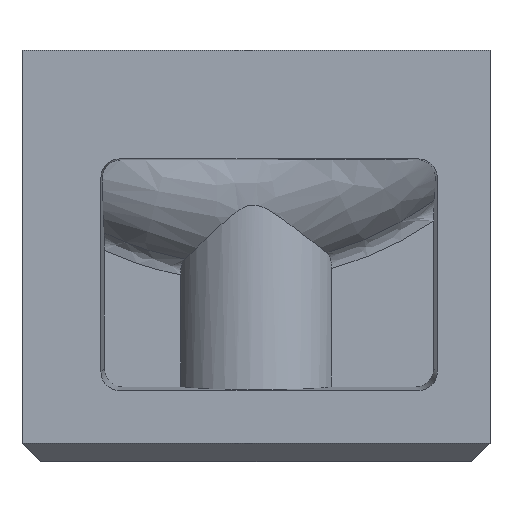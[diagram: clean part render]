
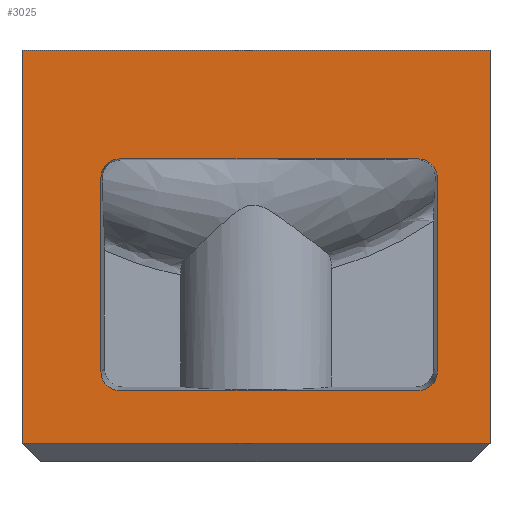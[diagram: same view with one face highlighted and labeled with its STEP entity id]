
A CAD part, left-side view. The second image highlights one B-rep face of the part: STEP entity #3025.
In plain terms, the highlighted planar face has unit normal (-1, 0, 0).
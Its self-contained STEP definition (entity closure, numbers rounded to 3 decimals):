
#226=DIRECTION('',(0.,1.,0.));
#227=VECTOR('',#226,25.);
#228=CARTESIAN_POINT('',(-5.,-22.5,2.5));
#229=LINE('',#228,#227);
#684=DIRECTION('',(0.,1.,0.));
#685=VECTOR('',#684,25.);
#686=CARTESIAN_POINT('',(-5.,-22.5,-18.5));
#687=LINE('',#686,#685);
#688=DIRECTION('',(0.,0.,-1.));
#689=VECTOR('',#688,21.);
#690=CARTESIAN_POINT('',(-5.,-22.5,2.5));
#691=LINE('',#690,#689);
#692=DIRECTION('',(0.,1.,0.));
#693=VECTOR('',#692,15.969);
#694=CARTESIAN_POINT('',(-5.,-18.685,
-3.317));
#695=LINE('',#694,#693);
#696=DIRECTION('',(0.,0.,-1.));
#697=VECTOR('',#696,10.369);
#698=CARTESIAN_POINT('',(-5.,-1.717,
-4.315));
#699=LINE('',#698,#697);
#700=DIRECTION('',(0.,-1.,0.));
#701=VECTOR('',#700,15.969);
#702=CARTESIAN_POINT('',(-5.,-2.715,
-15.683));
#703=LINE('',#702,#701);
#704=DIRECTION('',(0.,0.,1.));
#705=VECTOR('',#704,10.369);
#706=CARTESIAN_POINT('',(-5.,-19.683,
-14.685));
#707=LINE('',#706,#705);
#712=DIRECTION('',(0.,0.,-1.));
#713=VECTOR('',#712,21.);
#714=CARTESIAN_POINT('',(-5.,2.5,2.5));
#715=LINE('',#714,#713);
#724=CARTESIAN_POINT('',(-5.,-18.685,
-3.317));
#725=CARTESIAN_POINT('',(-5.,-18.761,
-3.317));
#726=CARTESIAN_POINT('',(-5.,-18.909,
-3.333));
#727=CARTESIAN_POINT('',(-5.,-19.122,
-3.408));
#728=CARTESIAN_POINT('',(-5.,-19.313,
-3.528));
#729=CARTESIAN_POINT('',(-5.,-19.472,
-3.687));
#730=CARTESIAN_POINT('',(-5.,-19.592,
-3.878));
#731=CARTESIAN_POINT('',(-5.,-19.667,
-4.091));
#732=CARTESIAN_POINT('',(-5.,-19.683,
-4.239));
#733=CARTESIAN_POINT('',(-5.,-19.683,
-4.315));
#747=CARTESIAN_POINT('',(-5.,-19.683,
-14.685));
#748=CARTESIAN_POINT('',(-5.,-19.683,
-14.761));
#749=CARTESIAN_POINT('',(-5.,-19.667,
-14.909));
#750=CARTESIAN_POINT('',(-5.,-19.592,
-15.122));
#751=CARTESIAN_POINT('',(-5.,-19.472,
-15.313));
#752=CARTESIAN_POINT('',(-5.,-19.313,
-15.472));
#753=CARTESIAN_POINT('',(-5.,-19.122,
-15.592));
#754=CARTESIAN_POINT('',(-5.,-18.909,
-15.667));
#755=CARTESIAN_POINT('',(-5.,-18.761,
-15.683));
#756=CARTESIAN_POINT('',(-5.,-18.685,
-15.683));
#803=CARTESIAN_POINT('',(-5.,-2.715,
-15.683));
#804=CARTESIAN_POINT('',(-5.,-2.639,
-15.683));
#805=CARTESIAN_POINT('',(-5.,-2.491,
-15.667));
#806=CARTESIAN_POINT('',(-5.,-2.278,
-15.592));
#807=CARTESIAN_POINT('',(-5.,-2.087,
-15.472));
#808=CARTESIAN_POINT('',(-5.,-1.928,
-15.313));
#809=CARTESIAN_POINT('',(-5.,-1.808,
-15.122));
#810=CARTESIAN_POINT('',(-5.,-1.733,
-14.909));
#811=CARTESIAN_POINT('',(-5.,-1.717,
-14.761));
#812=CARTESIAN_POINT('',(-5.,-1.717,
-14.685));
#837=CARTESIAN_POINT('',(-5.,-1.717,
-4.315));
#838=CARTESIAN_POINT('',(-5.,-1.717,
-4.239));
#839=CARTESIAN_POINT('',(-5.,-1.733,
-4.091));
#840=CARTESIAN_POINT('',(-5.,-1.808,
-3.878));
#841=CARTESIAN_POINT('',(-5.,-1.928,
-3.687));
#842=CARTESIAN_POINT('',(-5.,-2.087,
-3.528));
#843=CARTESIAN_POINT('',(-5.,-2.278,
-3.408));
#844=CARTESIAN_POINT('',(-5.,-2.491,
-3.333));
#845=CARTESIAN_POINT('',(-5.,-2.639,
-3.317));
#846=CARTESIAN_POINT('',(-5.,-2.715,
-3.317));
#1333=CARTESIAN_POINT('',(-5.,-22.5,-18.5));
#1334=VERTEX_POINT('',#1333);
#1337=CARTESIAN_POINT('',(-5.,2.5,-18.5));
#1338=VERTEX_POINT('',#1337);
#1362=CARTESIAN_POINT('',(-5.,-22.5,2.5));
#1363=VERTEX_POINT('',#1362);
#1371=CARTESIAN_POINT('',(-5.,2.5,2.5));
#1372=VERTEX_POINT('',#1371);
#1378=CARTESIAN_POINT('',(-5.,-18.685,
-3.317));
#1379=CARTESIAN_POINT('',(-5.,-2.715,
-3.317));
#1380=VERTEX_POINT('',#1378);
#1381=VERTEX_POINT('',#1379);
#1382=VERTEX_POINT('',#837);
#1383=CARTESIAN_POINT('',(-5.,-1.717,
-14.685));
#1384=VERTEX_POINT('',#1383);
#1385=VERTEX_POINT('',#803);
#1386=CARTESIAN_POINT('',(-5.,-18.685,
-15.683));
#1387=VERTEX_POINT('',#1386);
#1388=VERTEX_POINT('',#747);
#1389=CARTESIAN_POINT('',(-5.,-19.683,
-4.315));
#1390=VERTEX_POINT('',#1389);
#2995=CARTESIAN_POINT('',(-5.,2.5,-19.5));
#2996=DIRECTION('',(-1.,0.,0.));
#2997=DIRECTION('',(0.,-1.,0.));
#2998=AXIS2_PLACEMENT_3D('',#2995,#2996,#2997);
#2999=PLANE('',#2998);
#3000=ORIENTED_EDGE('',*,*,#1646,.T.);
#3002=ORIENTED_EDGE('',*,*,#3001,.F.);
#3003=ORIENTED_EDGE('',*,*,#1760,.F.);
#3004=ORIENTED_EDGE('',*,*,#1723,.T.);
#3005=EDGE_LOOP('',(#3000,#3002,#3003,#3004));
#3006=FACE_OUTER_BOUND('',#3005,.F.);
#3008=ORIENTED_EDGE('',*,*,#3007,.T.);
#3010=ORIENTED_EDGE('',*,*,#3009,.F.);
#3012=ORIENTED_EDGE('',*,*,#3011,.T.);
#3014=ORIENTED_EDGE('',*,*,#3013,.F.);
#3016=ORIENTED_EDGE('',*,*,#3015,.T.);
#3018=ORIENTED_EDGE('',*,*,#3017,.F.);
#3020=ORIENTED_EDGE('',*,*,#3019,.T.);
#3022=ORIENTED_EDGE('',*,*,#3021,.F.);
#3023=EDGE_LOOP('',(#3008,#3010,#3012,#3014,#3016,#3018,#3020,#3022));
#3024=FACE_BOUND('',#3023,.F.);
#3025=ADVANCED_FACE('',(#3006,#3024),#2999,.T.);
#734=B_SPLINE_CURVE_WITH_KNOTS('',3,(#724,#725,#726,#727,#728,#729,#730,#731,
#732,#733),.UNSPECIFIED.,.F.,.F.,(4,1,1,1,1,1,1,4),(0.,0.143,
0.286,0.429,0.571,0.714,
0.857,1.),.UNSPECIFIED.);
#757=B_SPLINE_CURVE_WITH_KNOTS('',3,(#747,#748,#749,#750,#751,#752,#753,#754,
#755,#756),.UNSPECIFIED.,.F.,.F.,(4,1,1,1,1,1,1,4),(0.,0.143,
0.286,0.429,0.571,0.714,
0.857,1.),.UNSPECIFIED.);
#813=B_SPLINE_CURVE_WITH_KNOTS('',3,(#803,#804,#805,#806,#807,#808,#809,#810,
#811,#812),.UNSPECIFIED.,.F.,.F.,(4,1,1,1,1,1,1,4),(0.,0.143,
0.286,0.429,0.571,0.714,
0.857,1.),.UNSPECIFIED.);
#847=B_SPLINE_CURVE_WITH_KNOTS('',3,(#837,#838,#839,#840,#841,#842,#843,#844,
#845,#846),.UNSPECIFIED.,.F.,.F.,(4,1,1,1,1,1,1,4),(0.,0.143,
0.286,0.429,0.571,0.714,
0.857,1.),.UNSPECIFIED.);
#1646=EDGE_CURVE('',#1334,#1338,#687,.T.);
#1723=EDGE_CURVE('',#1363,#1334,#691,.T.);
#1760=EDGE_CURVE('',#1363,#1372,#229,.T.);
#3001=EDGE_CURVE('',#1372,#1338,#715,.T.);
#3007=EDGE_CURVE('',#1380,#1381,#695,.T.);
#3009=EDGE_CURVE('',#1382,#1381,#847,.T.);
#3011=EDGE_CURVE('',#1382,#1384,#699,.T.);
#3013=EDGE_CURVE('',#1385,#1384,#813,.T.);
#3015=EDGE_CURVE('',#1385,#1387,#703,.T.);
#3017=EDGE_CURVE('',#1388,#1387,#757,.T.);
#3019=EDGE_CURVE('',#1388,#1390,#707,.T.);
#3021=EDGE_CURVE('',#1380,#1390,#734,.T.);
